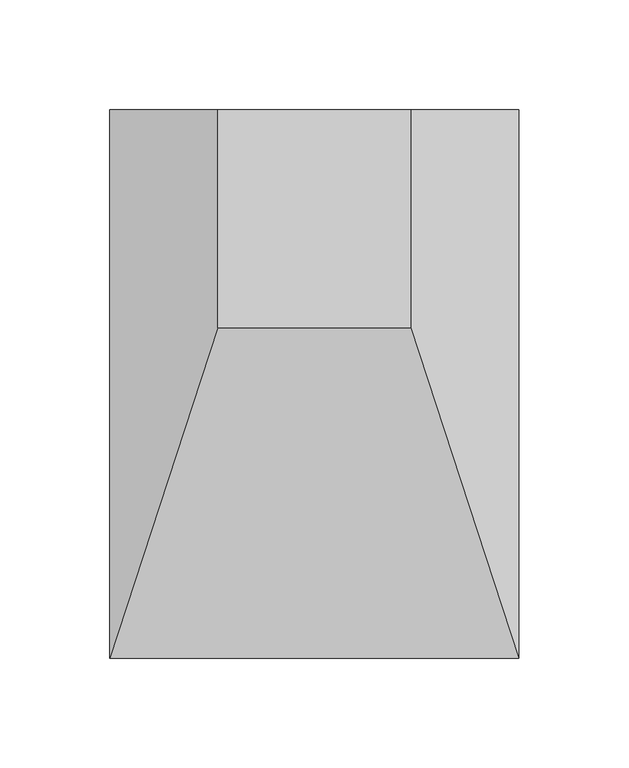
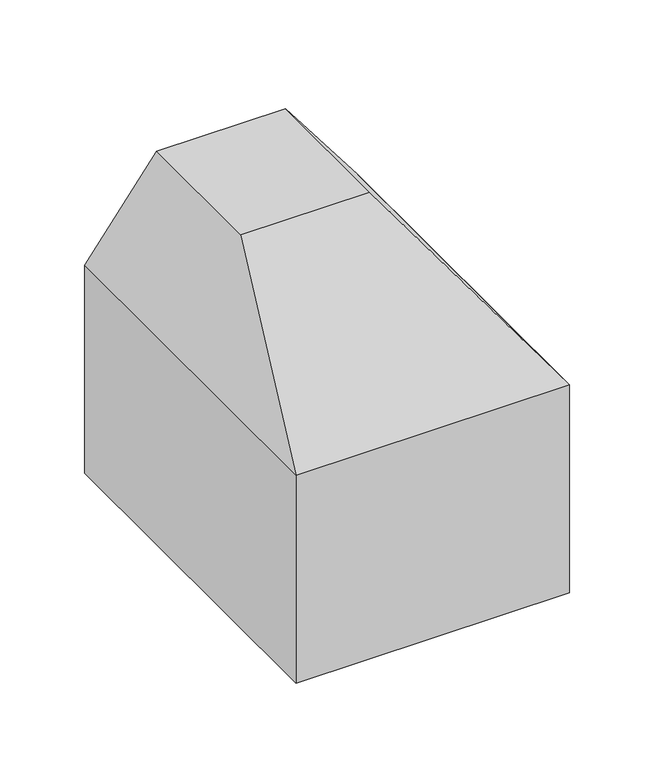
"""IFC4 building model written with IfcOpenShell, lengths in millimetres: duct fitting geometry, Отвод плоский - для перехода на кабель-канал шириной 80 мм - белый : Отвод плоский - для односекционных кабель-каналов DLP 65х150/195/220 - ширина профиля 105 мм - белый."""

from ifc_helpers import new_model, si_unit, frame, origin, place, context, project, spatial, polyline, outline, extrude, faceted_brep, source, transform, mapped, element, save


def duct_fitting_9a198fcd(model_context):
    return source(origin(), model_context, "Body", "SolidModel", [
        faceted_brep([(44.0, 85.0, 65.0), (-44.0, 85.0, 65.0), (-44.0, -14.461365, 65.0), (44.0, -14.461365, 65.0), (93.2693175, 85.0, 0.0), (93.2693175, -165.0, 0.0), (-93.2693175, -165.0, 0.0), (-93.2693175, 85.0, 0.0)], [[[0, 1, 2, 3]], [[4, 5, 6, 7]], [[4, 7, 1, 0]], [[7, 6, 2, 1]], [[6, 5, 3, 2]], [[5, 4, 0, 3]]]),
        extrude(outline(polyline([(93.2693175, 85.0), (93.2693175, -165.0), (-93.2693175, -165.0), (-93.2693175, 85.0), (93.2693175, 85.0)])), frame((0.0, 0.0, -150.0), z_axis=(0.0, 0.0, 1.0), x_axis=(1.0, 0.0, 0.0)), (0.0, 0.0, 1.0), 150.0),
    ])


if __name__ == "__main__":
    model = new_model("IFC4")
    model_context = context("Model", 3, world=origin())
    ifc_project = project(units=[si_unit("LENGTHUNIT", "METRE", prefix="MILLI")], contexts=[model_context])
    site = spatial("IfcSite", under=ifc_project)
    building = spatial("IfcBuilding", under=site)
    placement = place(None, origin())
    duct_fitting_shape = duct_fitting_9a198fcd(model_context)
    element("IfcDuctFitting", 1, ObjectType="Отвод плоский - для перехода на кабель-канал шириной 80 мм - белый : Отвод плоский - для односекционных кабель-каналов DLP 65х150/195/220 - ширина профиля 105 мм - белый", at=placement, inside=building, context=model_context, shape_type="MappedRepresentation", body=[
        mapped(duct_fitting_shape, transform((0.0, 0.0, 0.0), x_axis=(1.0, 0.0, 0.0), y_axis=(0.0, 1.0, 0.0), z_axis=(0.0, 0.0, 1.0))),
    ])
    save(model, "model.ifc")
